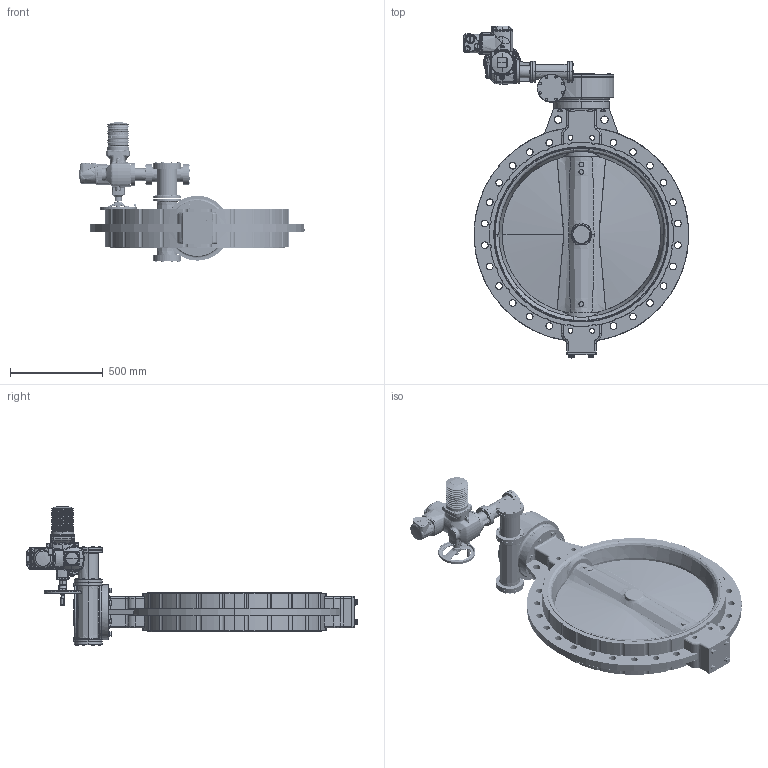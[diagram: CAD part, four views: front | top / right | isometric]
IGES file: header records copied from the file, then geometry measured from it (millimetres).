
Start section: SolidWorks IGES file using analytic representation for surfaces
Global section: file name: H:\BE BIBLIOTHEQUE 3D\BE SECTION 01 - ROBINETS A PAPILLON_VANNES PASSAGE DIRECTE\VP - Vanne Papillon\VPE\WORLDVALVE\WAFER\TECLARGE\VPE440X-UX4\PN10\DN900\VPE440X-U04EP0900.IGS; native system: SolidWorks 2017; preprocessor: SolidWorks 2017; author: k.gigout; date: 200805.083937; units: millimetre
Bounding box: 1218.04 x 1793.9 x 754.06 mm (x, y, z)
Surface area: 5776860.5 mm2 (no closed solid volume)
Topology: 0 solids, 0 shells, 1884 faces, 32181 edges, 32158 vertices
Faces by surface type: bspline 1092, revolution 792
